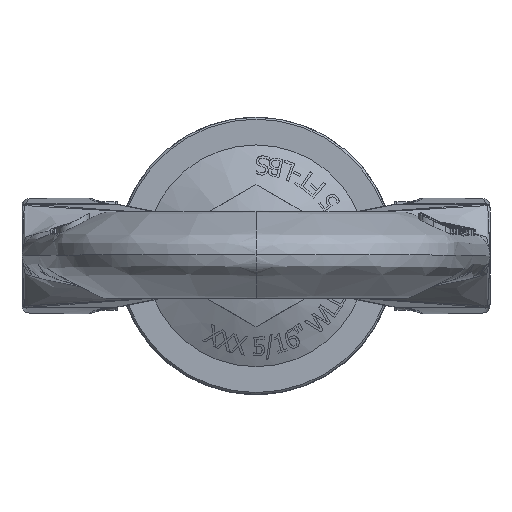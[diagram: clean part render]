
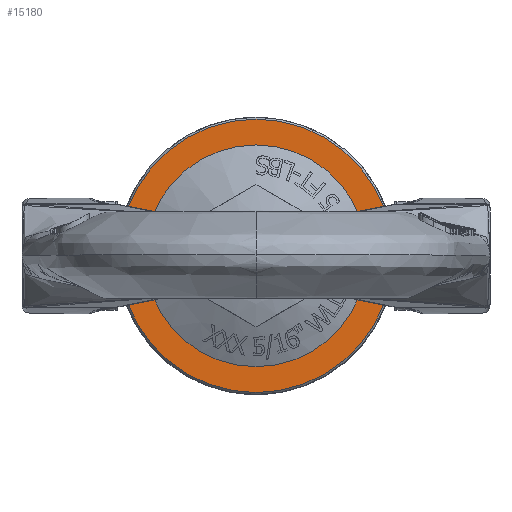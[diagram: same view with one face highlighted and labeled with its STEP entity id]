
A CAD part, top view. The second image highlights one B-rep face of the part: STEP entity #15180.
In plain terms, the highlighted planar face has unit normal (0, 0, 1) as drawn and (0, 0, -1) by its records, which use the part's own axes.
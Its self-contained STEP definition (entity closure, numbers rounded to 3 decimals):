
#3488=PLANE('',#16177);
#3764=FACE_BOUND('',#5181,.T.);
#4225=FACE_OUTER_BOUND('',#5180,.T.);
#5180=EDGE_LOOP('',(#12203));
#5181=EDGE_LOOP('',(#12204));
#5877=CIRCLE('',#16151,11.5);
#5889=CIRCLE('',#16175,22.2);
#6839=VERTEX_POINT('',#26516);
#6841=VERTEX_POINT('',#26542);
#8732=EDGE_CURVE('',#6839,#6839,#5877,.T.);
#8744=EDGE_CURVE('',#6841,#6841,#5889,.T.);
#12203=ORIENTED_EDGE('',*,*,#8744,.F.);
#12204=ORIENTED_EDGE('',*,*,#8732,.T.);
#15180=ADVANCED_FACE('',(#4225,#3764),#3488,.T.);
#16151=AXIS2_PLACEMENT_3D('',#26517,#18057,#18058);
#16175=AXIS2_PLACEMENT_3D('',#26543,#18105,#18106);
#16177=AXIS2_PLACEMENT_3D('',#26545,#18109,#18110);
#18057=DIRECTION('center_axis',(0.,0.,1.));
#18058=DIRECTION('ref_axis',(1.,0.,0.));
#18105=DIRECTION('center_axis',(0.,0.,1.));
#18106=DIRECTION('ref_axis',(0.,-1.,0.));
#18109=DIRECTION('center_axis',(0.,0.,-1.));
#18110=DIRECTION('ref_axis',(-1.,0.,0.));
#26516=CARTESIAN_POINT('',(-11.5,0.,0.));
#26517=CARTESIAN_POINT('Origin',(0.,0.,0.));
#26542=CARTESIAN_POINT('',(0.,22.2,0.));
#26543=CARTESIAN_POINT('Origin',(0.,0.,0.));
#26545=CARTESIAN_POINT('Origin',(0.,11.25,0.));
